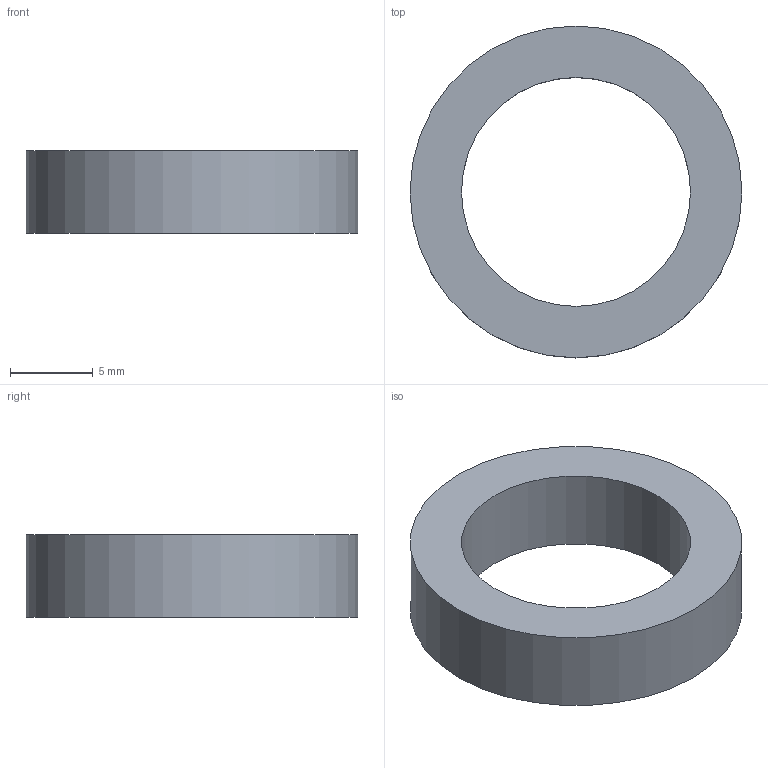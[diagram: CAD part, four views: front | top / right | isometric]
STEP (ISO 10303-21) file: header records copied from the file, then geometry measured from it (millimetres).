
FILE_DESCRIPTION(('FreeCAD Model'),'2;1');
FILE_NAME('Open CASCADE Shape Model','2026-11-20T08:25:39',('FreeCAD'),( 'FreeCAD'),'Open CASCADE STEP processor 7.8','FreeCAD','Unknown');
FILE_SCHEMA(('AUTOMOTIVE_DESIGN { 1 0 10303 214 1 1 1 1 }'));
Length unit declared in the file: millimetre
Products named in the file (1): Open CASCADE STEP translator 7.8 106
Bounding box: 20 x 20 x 5 mm (x, y, z)
Volume: 822.9 mm3; surface area: 860.1 mm2
Topology: 1 solids, 1 shells, 4 faces, 6 edges, 4 vertices
Faces by surface type: cylinder 2, plane 2
Full cylindrical faces by diameter (mm): 13.8 x1, 20 x1
Entity records: 108 total; most frequent: DIRECTION 20, CARTESIAN_POINT 15, ORIENTED_EDGE 12, AXIS2_PLACEMENT_3D 9, FACE_BOUND 6, EDGE_LOOP 6, EDGE_CURVE 6, ADVANCED_FACE 4
